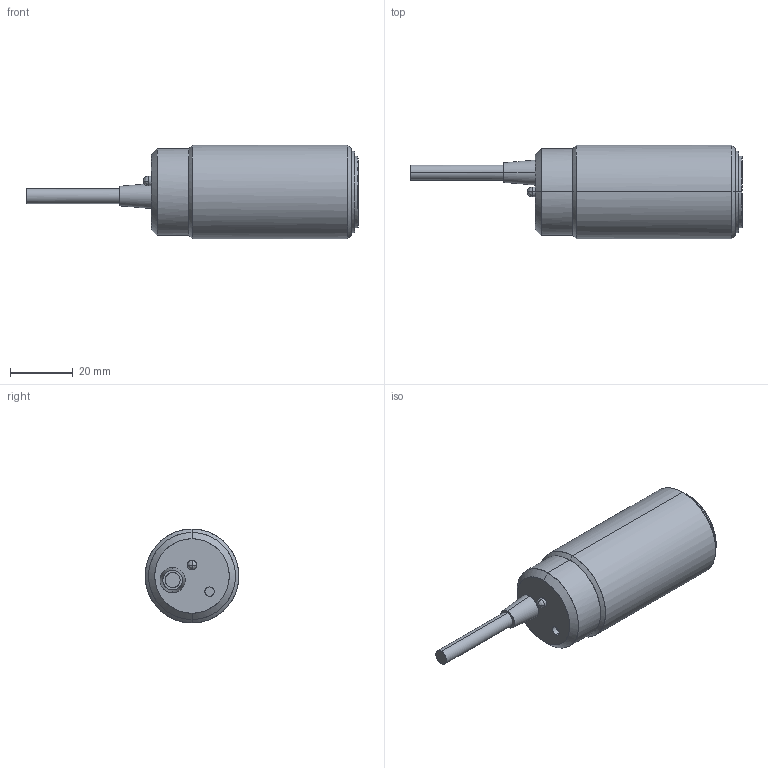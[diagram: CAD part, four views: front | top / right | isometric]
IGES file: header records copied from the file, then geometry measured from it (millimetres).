
Start section: Comment
Global section: file name: FZAM 30 m Linsenaufsatz.igs; native system:  By Spatial Corp.; preprocessor: XPlus GENERIC/IGES 3.0; author: Author; organization: Title; date: 20040805.073749; units: inch
Bounding box: 106.1 x 29.95 x 30 mm (x, y, z)
Surface area: 8207.8 mm2 (no closed solid volume)
Topology: 0 solids, 0 shells, 48 faces, 192 edges, 188 vertices
Faces by surface type: bspline 48
